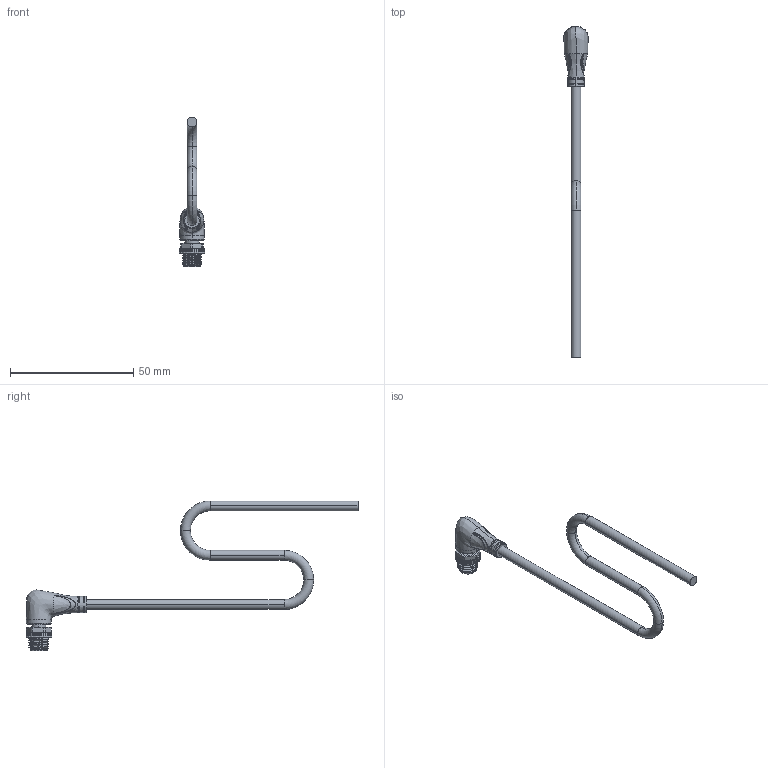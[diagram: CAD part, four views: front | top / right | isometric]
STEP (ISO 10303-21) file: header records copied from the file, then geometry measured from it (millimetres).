
FILE_DESCRIPTION (( 'STEP AP214' ), '1' );
FILE_NAME ('M8-3MVL-02Y.STEP', '2025-09-25T06:16:04', ( 'Windows User' ), ( 'P R C' ), 'SwSTEP 2.0', 'SolidWorks 2023', '' );
FILE_SCHEMA (( 'AUTOMOTIVE_DESIGN' ));
Length unit declared in the file: millimetre
Products named in the file (8): SD1100823-M8滚花螺栓（外螺纹对边9）-A0; M8 PCB （机加工）三芯; SD1705294-M8-3P公端插座-A0; LED; M8-3MVL-02Y; 90°包胶; 导线_φ4.0; M8公端插针（机加工件）
Assembly tree (10 placements, depth 2):
  M8-3MVL-02Y
    SD1705294-M8-3P公端插座-A0
    导线_φ4.0
    90°包胶
    M8公端插针（机加工件）  x3
    M8 PCB （机加工）三芯
    SD1100823-M8滚花螺栓（外螺纹对边9）-A0
    LED  x2
Bounding box: 10.38 x 134.7 x 60.85 mm (x, y, z)
Volume: 5297.1 mm3; surface area: 5816.5 mm2
Topology: 10 solids, 10 shells, 759 faces, 1965 edges, 1274 vertices
Faces by surface type: plane 227, cylinder 219, bspline 147, cone 145, torus 15, sphere 6
Entity records: 32246 total; most frequent: CARTESIAN_POINT 16390, ORIENTED_EDGE 3618, DIRECTION 2768, EDGE_CURVE 1809, VERTEX_POINT 1178, AXIS2_PLACEMENT_3D 1051, EDGE_LOOP 739, ADVANCED_FACE 685
